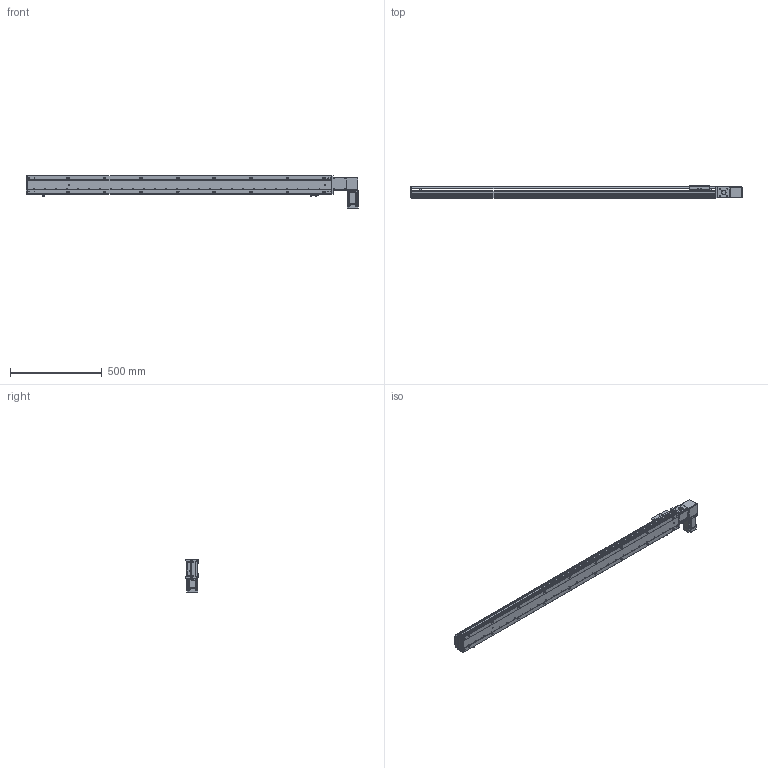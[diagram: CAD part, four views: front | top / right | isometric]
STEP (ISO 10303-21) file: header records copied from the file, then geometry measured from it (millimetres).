
FILE_DESCRIPTION (( 'STEP AP203' ), '1' );
FILE_NAME ('RY100-T-300-LK.SLDASM_1450.step', '2024-04-25T05:38:08', ( '盈信电脑' ), ( '东莞市道滘镇水果街19号' ), 'SwSTEP 2.0', 'SolidWorks 2016', '' );
FILE_SCHEMA (( 'CONFIG_CONTROL_DESIGN' ));
Length unit declared in the file: millimetre
Products named in the file (13): RY80-T肮祭謫俋欶; 覜茼ん672; RY100-T-300-RK倰第奻裔_1450; RY100綴裔啣; RY100-T左右折电机安装板; 滅袉蝶18-10; RY100-T肮祭謫翋盓傅釱; RY100-T翋肮祭謫裔啣2; RY100-T-300-RK倰第菁釱_1450; 1; RY100-T-300-LK.SLDASM_1450; RY100-T肮祭謫臏賑輸; RY100俋离覜茼え
Assembly tree (16 placements, depth 2):
  RY100-T-300-LK.SLDASM_1450
    RY100-T-300-RK倰第菁釱_1450
    RY100-T-300-RK倰第奻裔_1450
    RY100-T肮祭謫臏賑輸
    RY100綴裔啣
    覜茼ん672  x3
    RY100俋离覜茼え
    RY100-T肮祭謫翋盓傅釱
    滅袉蝶18-10  x2
    RY100-T翋肮祭謫裔啣2  x2
    RY80-T肮祭謫俋欶
    RY100-T左右折电机安装板
    1
Bounding box: 1814 x 66 x 182.5 mm (x, y, z)
Volume: 3332286.2 mm3; surface area: 1391079.9 mm2
Topology: 16 solids, 16 shells, 2188 faces, 6116 edges, 3976 vertices
Faces by surface type: plane 1178, cylinder 799, cone 133, bspline 78
Entity records: 70088 total; most frequent: CARTESIAN_POINT 17081, ORIENTED_EDGE 10968, DIRECTION 10408, EDGE_CURVE 5484, VERTEX_POINT 3612, LINE 3528, VECTOR 3528, AXIS2_PLACEMENT_3D 3440
